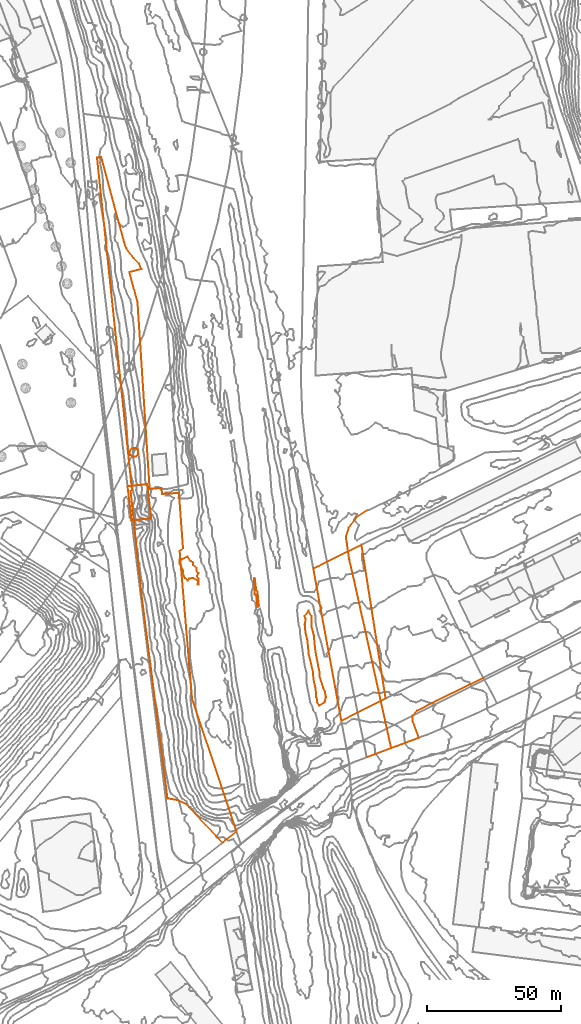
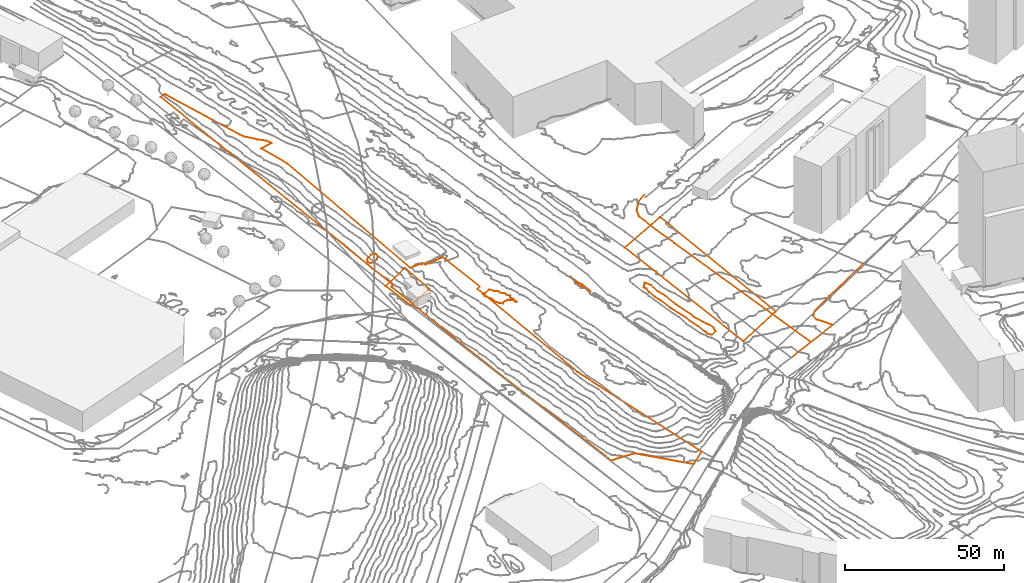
# Not in any storey, part 294 of 419: 12 proxies.
"""IFC2X3 model written with IfcOpenShell, lengths in metres."""

from ifc_helpers import new_model, entity, si_unit, frame, origin_with_axes, place, context, subcontext, project, element, save


model = new_model("IFC2X3")

# Units and contexts
model_context = context("Model", 3, precision=1e-05, world=origin_with_axes())
body_context = subcontext(model_context, "Body", "Model", "MODEL_VIEW")
ifc_project = project(units=[si_unit("AREAUNIT", "SQUARE_METRE"), si_unit("LENGTHUNIT", "METRE")], contexts=[model_context])

# Proxies
proxy_1_placement = place(None, frame((213.9920204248, 828.4976909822, 30.8657995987), z_axis=(0.0, 0.0, 1.0), x_axis=(1.0, 0.0, 0.0)))
element("IfcBuildingElementProxy", 1, at=proxy_1_placement, Name="Route 22", ObjectType="NOTDEFINED", context=body_context, shape_type="GeometricCurveSet", body=[
    entity("IfcGeometricCurveSet", [entity("IfcPolyline", [entity("IfcCartesianPoint", [7.7, 9.8000000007, 0.158900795]), entity("IfcCartesianPoint", [3.9, 7.2000000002, 0.1591009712]), entity("IfcCartesianPoint", [1.1, 3.4000000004, 0.0617006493]), entity("IfcCartesianPoint", [0.0, 0.0, 0.0]), entity("IfcCartesianPoint", [0.4, -2.5999999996, -0.0957991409]), entity("IfcCartesianPoint", [1.2999999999, -8.5999999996, -0.4592995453]), entity("IfcCartesianPoint", [3.2, -16.5999999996, -1.1798001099]), entity("IfcCartesianPoint", [16.9, -78.6999999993, -6.3399995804])])]),
])
proxy_2_placement = place(None, frame((221.7920204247, 746.3976909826, 23.7), z_axis=(0.0, 0.0, 1.0), x_axis=(1.0, 0.0, 0.0)))
element("IfcBuildingElementProxy", 2, at=proxy_2_placement, Name="Route 40", ObjectType="NOTDEFINED", context=body_context, shape_type="GeometricCurveSet", body=[
    entity("IfcGeometricCurveSet", [entity("IfcPolyline", [entity("IfcCartesianPoint", [0.0, 0.0, 0.0]), entity("IfcCartesianPoint", [9.1000000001, 3.4000000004, 0.7])])]),
])
proxy_3_placement = place(None, frame((238.8920204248, 759.7976909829, 24.3), z_axis=(0.0, 0.0, 1.0), x_axis=(1.0, 0.0, 0.0)))
element("IfcBuildingElementProxy", 3, at=proxy_3_placement, Name="Route 94", ObjectType="NOTDEFINED", context=body_context, shape_type="GeometricCurveSet", body=[
    entity("IfcGeometricCurveSet", [entity("IfcPolyline", [entity("IfcCartesianPoint", [26.2999999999, 16.1999999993, 2.4]), entity("IfcCartesianPoint", [8.8999999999, 7.6999999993, 1.2]), entity("IfcCartesianPoint", [1.6, 3.8999999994, 0.5]), entity("IfcCartesianPoint", [0.0, 2.1999999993, 0.1]), entity("IfcCartesianPoint", [0.0, 0.0, 0.0]), entity("IfcCartesianPoint", [2.2999999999, -6.1000000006, 0.8])])]),
])
proxy_4_placement = place(None, frame((230.8920204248, 749.7976909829, 24.4), z_axis=(0.0, 0.0, 1.0), x_axis=(1.0, 0.0, 0.0)))
element("IfcBuildingElementProxy", 4, at=proxy_4_placement, Name="Route 330", ObjectType="NOTDEFINED", context=body_context, shape_type="GeometricCurveSet", body=[
    entity("IfcGeometricCurveSet", [entity("IfcPolyline", [entity("IfcCartesianPoint", [0.0, 0.0, 0.0]), entity("IfcCartesianPoint", [10.2999999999, 3.8999999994, 0.7])])]),
])
proxy_5_placement = place(None, frame((121.3520204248, 969.6976909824, 23.7393195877), z_axis=(0.0, 0.0, 1.0), x_axis=(1.0, 0.0, 0.0)))
element("IfcBuildingElementProxy", 5, at=proxy_5_placement, Name="Cadastre 288", ObjectType="NOTDEFINED", context=body_context, shape_type="GeometricCurveSet", body=[
    entity("IfcGeometricCurveSet", [entity("IfcPolyline", [entity("IfcCartesianPoint", [33.48, -240.8899999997, -2.7095043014]), entity("IfcCartesianPoint", [30.09, -239.3099999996, -3.7372549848]), entity("IfcCartesianPoint", [26.25, -238.6299999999, -4.3477859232]), entity("IfcCartesianPoint", [16.52, -162.3199999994, -3.0157112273]), entity("IfcCartesianPoint", [13.66, -135.0599999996, -2.4743360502]), entity("IfcCartesianPoint", [20.2, -134.3199999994, 0.5271196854]), entity("IfcCartesianPoint", [18.66, -121.6099999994, 1.5002344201]), entity("IfcCartesianPoint", [12.86, -122.1899999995, -1.6551372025]), entity("IfcCartesianPoint", [0.0, 0.0, 0.0]), entity("IfcCartesianPoint", [1.58, 0.25, 0.4784302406]), entity("IfcCartesianPoint", [10.23, -32.0800000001, 1.4271923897]), entity("IfcCartesianPoint", [10.9400000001, -33.8899999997, 1.4892199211]), entity("IfcCartesianPoint", [13.63, -37.4299999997, 1.6177949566]), entity("IfcCartesianPoint", [15.61, -39.4100000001, 1.6326454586]), entity("IfcCartesianPoint", [16.49, -41.4399999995, 1.7102304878]), entity("IfcCartesianPoint", [12.03, -42.5800000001, 1.8125601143]), entity("IfcCartesianPoint", [15.0700000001, -53.8399999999, 1.7686801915]), entity("IfcCartesianPoint", [19.6, -123.3399999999, 2.2447603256]), entity("IfcCartesianPoint", [24.0700000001, -123.0299999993, 2.258953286]), entity("IfcCartesianPoint", [24.17, -125.2299999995, 3.0697335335]), entity("IfcCartesianPoint", [30.51, -124.8899999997, 3.4095309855]), entity("IfcCartesianPoint", [32.03, -145.4899999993, 4.1591773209]), entity("IfcCartesianPoint", [30.77, -146.4799999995, 4.1338263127]), entity("IfcCartesianPoint", [35.39, -201.4199999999, 3.9303208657]), entity("IfcCartesianPoint", [51.9300000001, -250.9299999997, -2.4469917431]), entity("IfcCartesianPoint", [46.66, -255.1099999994, -2.8632209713]), entity("IfcCartesianPoint", [33.48, -240.8899999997, -2.7095043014])])]),
])
proxy_6_placement = place(None, frame((133.4320204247, 859.9576909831, 22.5016000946), z_axis=(0.0, 0.0, 1.0), x_axis=(1.0, 0.0, 0.0)))
element("IfcBuildingElementProxy", 6, at=proxy_6_placement, Name="Cadastre 299", ObjectType="NOTDEFINED", context=body_context, shape_type="GeometricCurveSet", body=[
    entity("IfcGeometricCurveSet", [entity("IfcPolyline", [entity("IfcCartesianPoint", [3.25, 0.4299999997, 1.7971818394]), entity("IfcCartesianPoint", [3.1900000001, -0.71, 1.6837552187]), entity("IfcCartesianPoint", [2.42, -1.54, 1.2173039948]), entity("IfcCartesianPoint", [1.3, -1.6800000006, 0.6153685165]), entity("IfcCartesianPoint", [0.3400000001, -1.0700000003, 0.1282998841]), entity("IfcCartesianPoint", [0.0, 0.0, 0.0]), entity("IfcCartesianPoint", [0.42, 1.0499999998, 0.2782860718]), entity("IfcCartesianPoint", [0.9300000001, 1.4399999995, 0.5742004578]), entity("IfcCartesianPoint", [2.05, 1.5599999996, 1.2029321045]), entity("IfcCartesianPoint", [3.0, 0.9399999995, 1.6895997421]), entity("IfcCartesianPoint", [3.25, 0.4299999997, 1.7971818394])])]),
])
proxy_7_placement = place(None, frame((201.9020204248, 816.6776909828, 30.4217481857), z_axis=(0.0, 0.0, 1.0), x_axis=(1.0, 0.0, 0.0)))
element("IfcBuildingElementProxy", 7, at=proxy_7_placement, Name="Cadastre 391", ObjectType="NOTDEFINED", context=body_context, shape_type="GeometricCurveSet", body=[
    entity("IfcGeometricCurveSet", [entity("IfcPolyline", [entity("IfcCartesianPoint", [0.0, 0.0, 0.0]), entity("IfcCartesianPoint", [17.9199999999, 8.8799999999, 0.0802156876]), entity("IfcCartesianPoint", [26.9199999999, -48.3900000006, -4.6534415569]), entity("IfcCartesianPoint", [10.4199999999, -56.6400000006, -5.3465045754]), entity("IfcCartesianPoint", [0.0, 0.0, 0.0])])]),
])
proxy_8_placement = place(None, frame((132.7120204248, 847.3576909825, 21.1915352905), z_axis=(0.0, 0.0, 1.0), x_axis=(1.0, 0.0, 0.0)))
element("IfcBuildingElementProxy", 8, at=proxy_8_placement, Name="Cadastre 392", ObjectType="NOTDEFINED", context=body_context, shape_type="GeometricCurveSet", body=[
    entity("IfcGeometricCurveSet", [entity("IfcPolyline", [entity("IfcCartesianPoint", [1.5, 0.1500000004, 0.8926470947]), entity("IfcCartesianPoint", [1.67, -1.3499999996, 0.885165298]), entity("IfcCartesianPoint", [1.16, -1.7599999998, 0.3131045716]), entity("IfcCartesianPoint", [2.3, -12.7199999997, 0.0734482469]), entity("IfcCartesianPoint", [1.52, -12.8099999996, -0.1755754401]), entity("IfcCartesianPoint", [0.0, 0.0, 0.0]), entity("IfcCartesianPoint", [1.5, 0.1500000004, 0.8926470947])])]),
])
proxy_9_placement = place(None, frame((133.8720204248, 845.5976909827, 21.5046398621), z_axis=(0.0, 0.0, 1.0), x_axis=(1.0, 0.0, 0.0)))
element("IfcBuildingElementProxy", 9, at=proxy_9_placement, Name="Cadastre 396", ObjectType="NOTDEFINED", context=body_context, shape_type="GeometricCurveSet", body=[
    entity("IfcGeometricCurveSet", [entity("IfcPolyline", [entity("IfcCartesianPoint", [1.14, -10.96, -0.2396563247]), entity("IfcCartesianPoint", [0.0, 0.0, 0.0]), entity("IfcCartesianPoint", [0.51, 0.4100000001, 0.5720607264]), entity("IfcCartesianPoint", [0.34, 1.9100000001, 0.5795425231]), entity("IfcCartesianPoint", [6.14, 2.4900000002, 3.7349141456]), entity("IfcCartesianPoint", [7.6799999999, -10.2199999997, 2.761799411]), entity("IfcCartesianPoint", [1.14, -10.96, -0.2396563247])])]),
])
proxy_10_placement = place(None, frame((152.0920204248, 818.5643576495, 28.0), z_axis=(0.0, 0.0, 1.0), x_axis=(1.0, 0.0, 0.0)))
element("IfcBuildingElementProxy", 10, at=proxy_10_placement, Name="Contour 28.0 m", ObjectType="NOTDEFINED", context=body_context, shape_type="GeometricCurveSet", body=[
    entity("IfcGeometricCurveSet", [entity("IfcPolyline", [entity("IfcCartesianPoint", [7.1428610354, -7.666666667, 0.0]), entity("IfcCartesianPoint", [7.0, -7.916666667, 0.0]), entity("IfcCartesianPoint", [6.75, -7.666666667, 0.0]), entity("IfcCartesianPoint", [6.9999750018, -6.666666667, 0.0]), entity("IfcCartesianPoint", [5.0, -5.416666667, 0.0]), entity("IfcCartesianPoint", [3.5000249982, -5.666666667, 0.0]), entity("IfcCartesianPoint", [3.0, -6.333333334, 0.0]), entity("IfcCartesianPoint", [2.0, -5.416666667, 0.0]), entity("IfcCartesianPoint", [1.1428610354, -3.666666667, 0.0]), entity("IfcCartesianPoint", [1.3636426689, -2.666666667, 0.0]), entity("IfcCartesianPoint", [0.0, 0.0, 0.0]), entity("IfcCartesianPoint", [0.0, 1.4242440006, 0.0]), entity("IfcCartesianPoint", [1.0, 1.5555602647, 0.0]), entity("IfcCartesianPoint", [3.0, 2.583333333, 0.0]), entity("IfcCartesianPoint", [4.0, 0.9333333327, 0.0]), entity("IfcCartesianPoint", [5.0000333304, 0.333333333, 0.0]), entity("IfcCartesianPoint", [5.0000249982, -0.666666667, 0.0]), entity("IfcCartesianPoint", [6.2857220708, -1.666666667, 0.0]), entity("IfcCartesianPoint", [6.2857220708, -2.666666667, 0.0]), entity("IfcCartesianPoint", [7.0000333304, -3.666666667, 0.0]), entity("IfcCartesianPoint", [6.5000499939, -4.666666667, 0.0]), entity("IfcCartesianPoint", [7.0000999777, -5.666666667, 0.0]), entity("IfcCartesianPoint", [7.1428610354, -7.666666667, 0.0])])]),
])
proxy_11_placement = place(None, frame((179.842022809, 812.8976909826, 29.0), z_axis=(0.0, 0.0, 1.0), x_axis=(1.0, 0.0, 0.0)))
element("IfcBuildingElementProxy", 11, at=proxy_11_placement, Name="Contour 29.0 m", ObjectType="NOTDEFINED", context=body_context, shape_type="GeometricCurveSet", body=[
    entity("IfcGeometricCurveSet", [entity("IfcPolyline", [entity("IfcCartesianPoint", [1.2499976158, -10.4999958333, 0.0]), entity("IfcCartesianPoint", [1.7499934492, -10.0, 0.0]), entity("IfcCartesianPoint", [1.6785696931, -9.0, 0.0]), entity("IfcCartesianPoint", [1.2763139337, -5.0, 0.0]), entity("IfcCartesianPoint", [0.7884563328, -4.0, 0.0]), entity("IfcCartesianPoint", [0.2499976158, 0.2631557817, 0.0]), entity("IfcCartesianPoint", [0.0, 0.0, 0.0]), entity("IfcCartesianPoint", [0.1624979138, -5.0, 0.0]), entity("IfcCartesianPoint", [0.2499976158, -5.8749970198, 0.0]), entity("IfcCartesianPoint", [0.7500476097, -6.0, 0.0]), entity("IfcCartesianPoint", [1.2499976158, -10.4999958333, 0.0])])]),
])
proxy_12_placement = place(None, frame((198.5920266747, 798.8976909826, 27.0), z_axis=(0.0, 0.0, 1.0), x_axis=(1.0, 0.0, 0.0)))
element("IfcBuildingElementProxy", 12, at=proxy_12_placement, Name="Contour 27.0 m", ObjectType="NOTDEFINED", context=body_context, shape_type="GeometricCurveSet", body=[
    entity("IfcGeometricCurveSet", [entity("IfcPolyline", [entity("IfcCartesianPoint", [5.4999937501, -33.1875009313, 0.0]), entity("IfcCartesianPoint", [7.5606012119, -32.0, 0.0]), entity("IfcCartesianPoint", [7.9634098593, -30.0, 0.0]), entity("IfcCartesianPoint", [7.6355868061, -28.0, 0.0]), entity("IfcCartesianPoint", [7.0555469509, -27.0, 0.0]), entity("IfcCartesianPoint", [5.5952340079, -22.0, 0.0]), entity("IfcCartesianPoint", [5.6372479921, -21.0, 0.0]), entity("IfcCartesianPoint", [4.0861990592, -13.0, 0.0]), entity("IfcCartesianPoint", [3.4999937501, -7.2000000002, 0.0]), entity("IfcCartesianPoint", [2.7272670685, -4.0, 0.0]), entity("IfcCartesianPoint", [2.5596966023, 0.0, 0.0]), entity("IfcCartesianPoint", [1.4999937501, 2.1818213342, 0.0]), entity("IfcCartesianPoint", [0.0, 0.0, 0.0]), entity("IfcCartesianPoint", [0.433325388, -1.0, 0.0]), entity("IfcCartesianPoint", [0.1176413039, -3.0, 0.0]), entity("IfcCartesianPoint", [0.3727214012, -6.0, 0.0]), entity("IfcCartesianPoint", [1.0999937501, -9.0, 0.0]), entity("IfcCartesianPoint", [1.611107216, -14.0, 0.0]), entity("IfcCartesianPoint", [3.2441785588, -21.0, 0.0]), entity("IfcCartesianPoint", [3.3135520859, -23.0, 0.0]), entity("IfcCartesianPoint", [4.1666584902, -27.0, 0.0]), entity("IfcCartesianPoint", [4.3867869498, -30.0, 0.0]), entity("IfcCartesianPoint", [4.7758564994, -31.0, 0.0]), entity("IfcCartesianPoint", [4.7083241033, -32.0, 0.0]), entity("IfcCartesianPoint", [5.4999937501, -33.1875009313, 0.0])])]),
])

save(model, "model.ifc")
